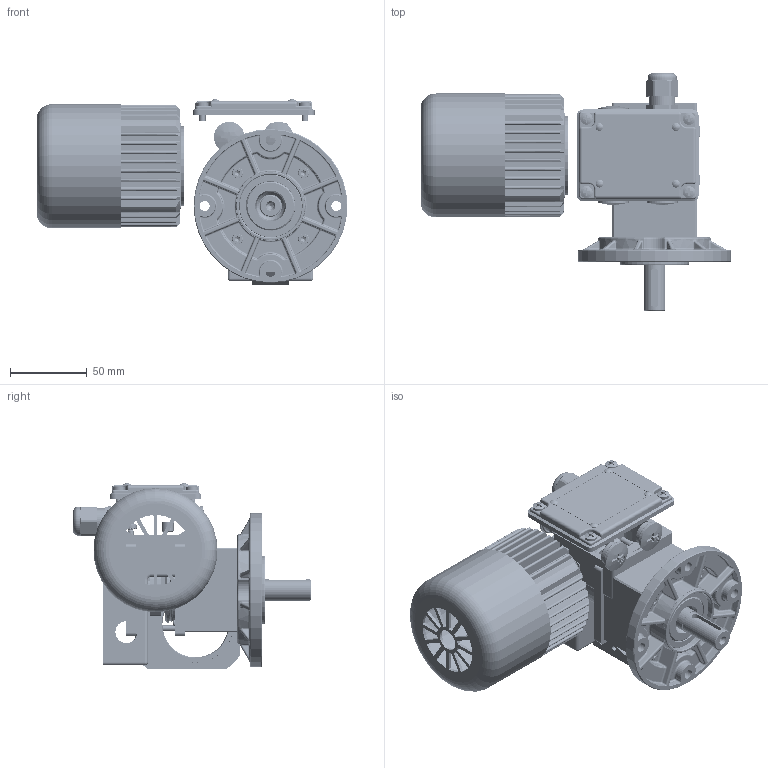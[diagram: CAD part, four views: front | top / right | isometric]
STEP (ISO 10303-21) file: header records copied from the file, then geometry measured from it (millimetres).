
FILE_DESCRIPTION(/* description */ (''),/* implementation_level */ '2;1');
FILE_NAME(/* name */ 'C:\Users\giuseppe.caruso.MINIMOTOR\Desktop\MODELLI STP\WEB\MCCE...MP B5S.stp',/* time_stamp */ '2014-07-10T11:29:20+02:00',/* author */ ('giuseppe.caruso'),/* organization */ (''),/* preprocessor_version */ 'ST-DEVELOPER v15.6',/* originating_system */ 'Autodesk Inventor 2015',/* authorisation */ '');
FILE_SCHEMA (('AUTOMOTIVE_DESIGN { 1 0 10303 214 3 1 1 }'));
Length unit declared in the file: millimetre
Products named in the file (43): CRT001-1; CRT001-2; CRT001-3; CRT001-4; CRT001-5; CRT001-6; CRT001; VCE445; RND020; RND014; VSE616; OR021; SPN018; RST004; VTC406; RIV014I; VTC410S; VCE410; TPP001; BOC001; OR009; ALR050; CRN002; ING275; CPR070; SRD061; RAD052; GRN035; CPV050; CPM005A; TRG001; TPP009; STT020; ING303; CHI003; SRD014; ALR063; CRT002; CHI005; RDE001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
Bounding box: 203.15 x 155.3 x 121.27 mm (x, y, z)
Volume: 431773.7 mm3; surface area: 284626.4 mm2
Topology: 62 solids, 64 shells, 5126 faces, 13924 edges, 8911 vertices
Faces by surface type: plane 2332, cylinder 1991, cone 284, torus 275, sphere 141, bspline 103
Full cylindrical faces by diameter (mm): 1.6 x2, 2.6 x4, 2.7 x8, 3.242 x28, 3.4 x4, 3.8 x4, 4 x25, 4.134 x3, 4.3 x1, 4.5 x18, 4.917 x1, 5 x4, 5.1 x4, 6 x5, 6.5 x4, 6.561 x1, 7 x11, 7.5 x10, 7.6 x1, 8 x7, 10 x1, 11 x4, 11.57 x1, 14 x2, 14.3 x1, 14.376 x4, 14.38 x1, 15 x3, 16 x5, 17 x4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
Entity records: 154023 total; most frequent: CARTESIAN_POINT 40120, ORIENTED_EDGE 24146, DIRECTION 22568, EDGE_CURVE 12069, AXIS2_PLACEMENT_3D 8132, VERTEX_POINT 7960, LINE 6304, VECTOR 6304
